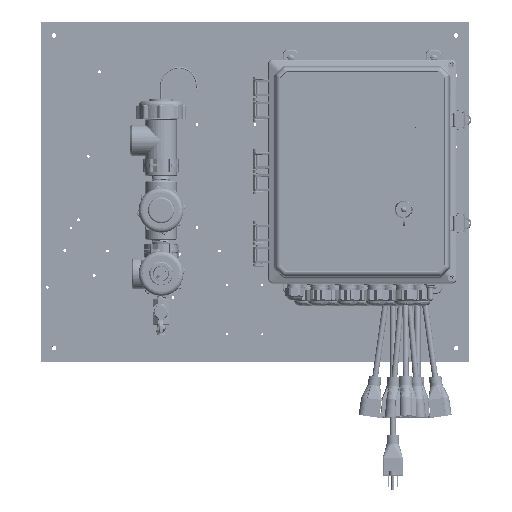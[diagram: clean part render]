
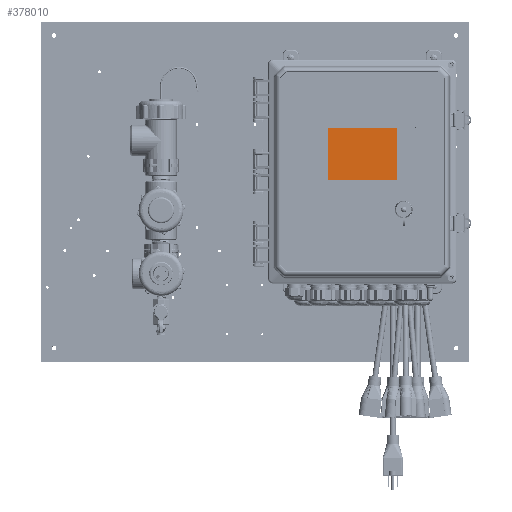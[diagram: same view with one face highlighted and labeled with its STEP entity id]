
A CAD part, top view. The second image highlights one B-rep face of the part: STEP entity #378010.
In plain terms, the highlighted planar face has unit normal (0, 0, 1) as drawn and (0, 0.819, -0.574) by its records, which use the part's own axes.
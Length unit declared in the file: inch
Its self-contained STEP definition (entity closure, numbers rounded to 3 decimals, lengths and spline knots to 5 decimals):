
#9916 = LINE ( 'NONE', #181277, #134001 ) ;
#16189 = DIRECTION ( 'NONE',  ( 1., 0., 0. ) ) ;
#29426 = EDGE_LOOP ( 'NONE', ( #409739, #468967, #114075, #306225 ) ) ;
#60265 = CARTESIAN_POINT ( 'NONE',  ( -3.75195, 5.06542, 1.8349 ) ) ;
#66408 = VECTOR ( 'NONE', #558415, 39.37008 ) ;
#85601 = DIRECTION ( 'NONE',  ( 0., -0.574, -0.819 ) ) ;
#92366 = LINE ( 'NONE', #175786, #464867 ) ;
#114075 = ORIENTED_EDGE ( 'NONE', *, *, #556571, .T. ) ;
#134001 = VECTOR ( 'NONE', #653373, 39.37008 ) ;
#139455 = VECTOR ( 'NONE', #85601, 39.37008 ) ;
#175786 = CARTESIAN_POINT ( 'NONE',  ( -3.75195, 7.27913, 4.9955 ) ) ;
#178725 = CARTESIAN_POINT ( 'NONE',  ( -3.75195, 7.27913, 4.9955 ) ) ;
#181277 = CARTESIAN_POINT ( 'NONE',  ( -3.75195, 5.06542, 1.8349 ) ) ;
#229877 = CARTESIAN_POINT ( 'NONE',  ( 0., 2.53611, -1.77631 ) ) ;
#264976 = LINE ( 'NONE', #463212, #66408 ) ;
#266604 = CARTESIAN_POINT ( 'NONE',  ( -0.83809, 5.06542, 1.8349 ) ) ;
#285049 = FACE_OUTER_BOUND ( 'NONE', #29426, .T. ) ;
#286967 = CARTESIAN_POINT ( 'NONE',  ( -0.83809, 5.06542, 1.8349 ) ) ;
#287142 = VERTEX_POINT ( 'NONE', #60265 ) ;
#289814 = PLANE ( 'NONE',  #372213 ) ;
#306225 = ORIENTED_EDGE ( 'NONE', *, *, #647689, .T. ) ;
#359099 = CARTESIAN_POINT ( 'NONE',  ( -0.83809, 7.27913, 4.9955 ) ) ;
#372213 = AXIS2_PLACEMENT_3D ( 'NONE', #229877, #618395, #511956 ) ;
#378010 = ADVANCED_FACE ( 'NONE', ( #285049 ), #289814, .T. ) ;
#409739 = ORIENTED_EDGE ( 'NONE', *, *, #632929, .T. ) ;
#424994 = VERTEX_POINT ( 'NONE', #286967 ) ;
#439630 = EDGE_CURVE ( 'NONE', #622336, #570788, #92366, .T. ) ;
#463212 = CARTESIAN_POINT ( 'NONE',  ( -3.75195, 5.06542, 1.8349 ) ) ;
#464867 = VECTOR ( 'NONE', #16189, 39.37008 ) ;
#468967 = ORIENTED_EDGE ( 'NONE', *, *, #439630, .T. ) ;
#511956 = DIRECTION ( 'NONE',  ( 0., 0.574, 0.819 ) ) ;
#528626 = LINE ( 'NONE', #266604, #139455 ) ;
#556571 = EDGE_CURVE ( 'NONE', #570788, #424994, #528626, .T. ) ;
#558415 = DIRECTION ( 'NONE',  ( 0., 0.574, 0.819 ) ) ;
#570788 = VERTEX_POINT ( 'NONE', #359099 ) ;
#618395 = DIRECTION ( 'NONE',  ( 0., 0.819, -0.574 ) ) ;
#622336 = VERTEX_POINT ( 'NONE', #178725 ) ;
#632929 = EDGE_CURVE ( 'NONE', #287142, #622336, #264976, .T. ) ;
#647689 = EDGE_CURVE ( 'NONE', #424994, #287142, #9916, .T. ) ;
#653373 = DIRECTION ( 'NONE',  ( -1., 0., 0. ) ) ;
